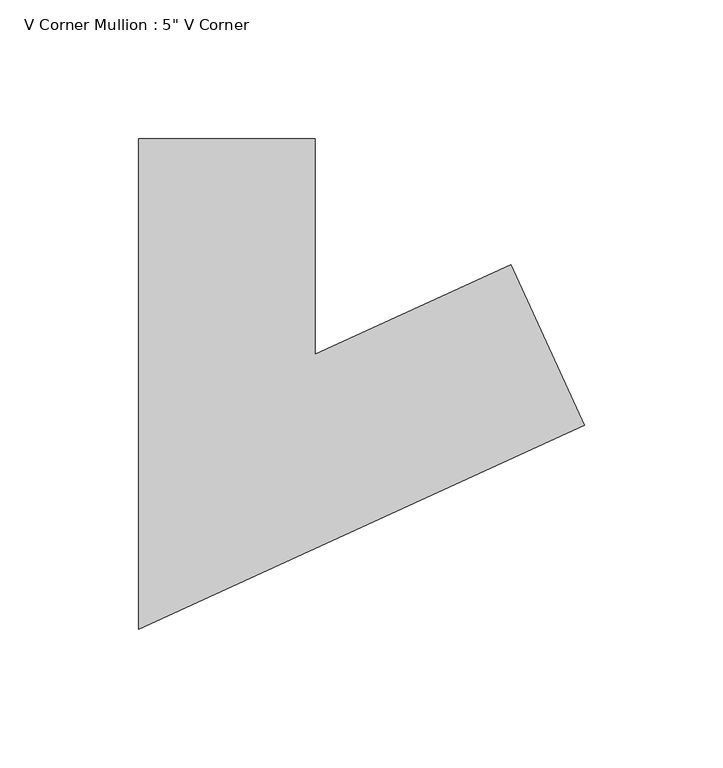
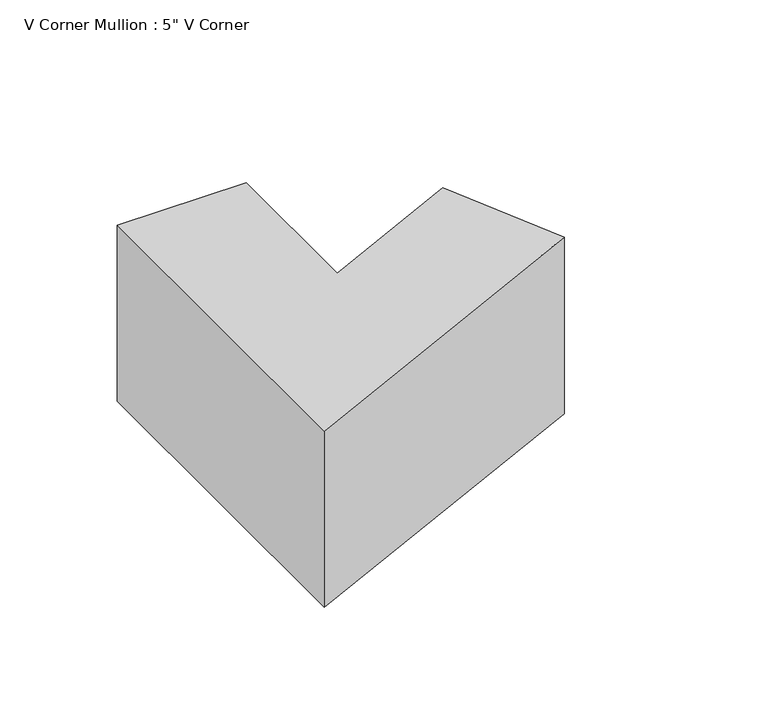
"""IFC4 building model written with IfcOpenShell, lengths in millimetres: member geometry."""

from ifc_helpers import new_model, si_unit, frame, origin, place, context, project, spatial, polyline, outline, extrude, source, transform, mapped, element, save


def member_87023f9a(model_context):
    return source(origin(), model_context, "Body", "SweptSolid", [
        extrude(outline(polyline([(87.9205542, -39.5195451), (-72.5228811, -112.9476953), (-72.5228811, 63.5), (-9.0228811, 63.5), (-9.0228811, -14.0523047), (61.49523, 18.2208415), (87.9205542, -39.5195451)])), frame((0.0, 0.0, -91.5694436), z_axis=(0.0, 0.0, 1.0), x_axis=(1.0, 0.0, 0.0)), (0.0, 0.0, 1.0), 91.5694436),
    ])


if __name__ == "__main__":
    model = new_model("IFC4")
    model_context = context("Model", 3, world=origin())
    ifc_project = project(units=[si_unit("LENGTHUNIT", "METRE", prefix="MILLI")], contexts=[model_context])
    site = spatial("IfcSite", under=ifc_project)
    building = spatial("IfcBuilding", under=site)
    placement = place(None, origin())
    member_shape = member_87023f9a(model_context)
    element("IfcMember", 1, ObjectType="V Corner Mullion : 5\" V Corner", at=placement, inside=building, context=model_context, shape_type="MappedRepresentation", body=[
        mapped(member_shape, transform((0.0, 0.0, 0.0), x_axis=(1.0, 0.0, 0.0), y_axis=(0.0, 1.0, 0.0), z_axis=(0.0, 0.0, 1.0))),
    ])
    save(model, "model.ifc")
